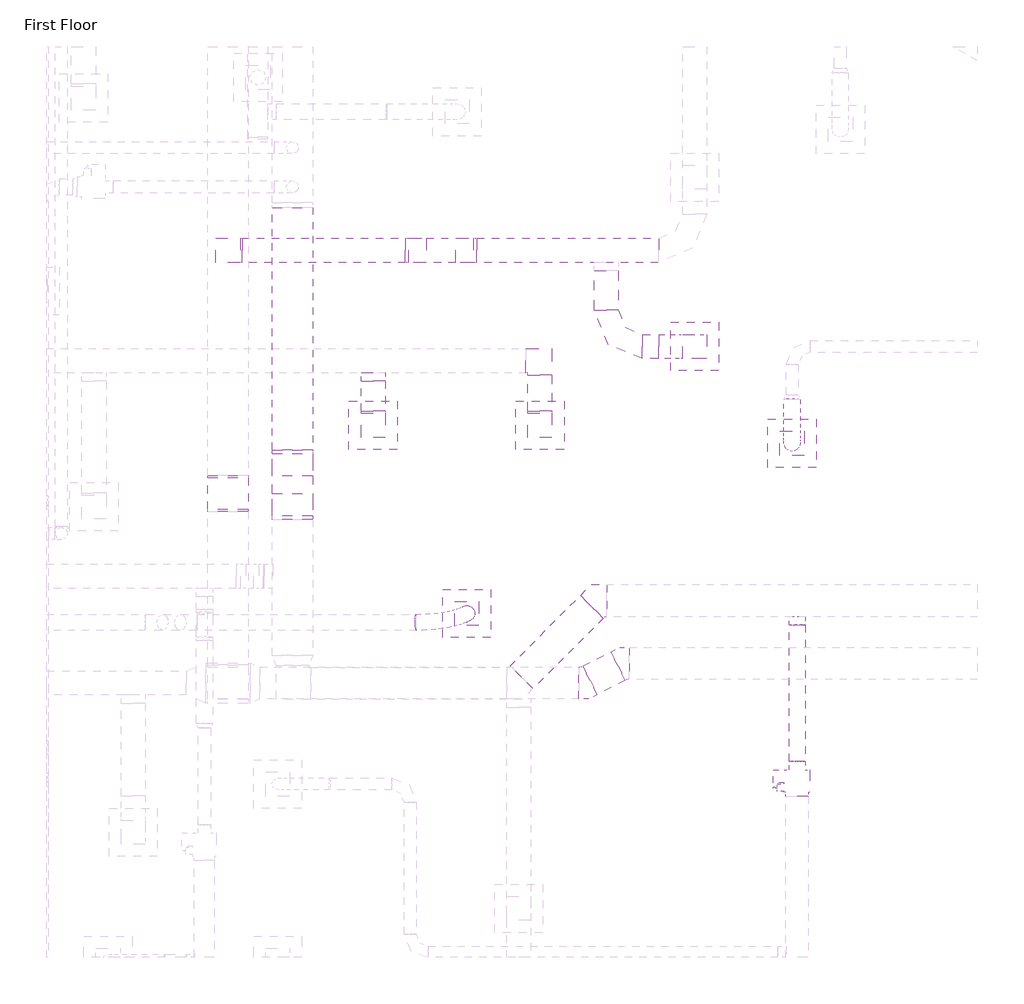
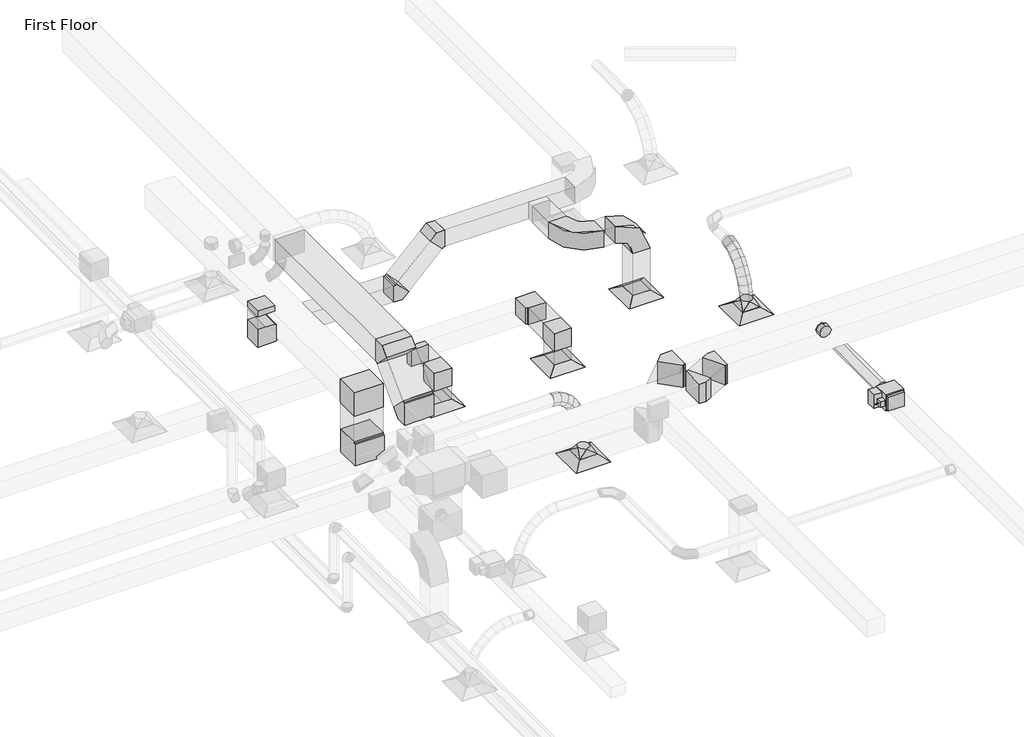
# One storey, part 8 of 61: 20 duct fittings, 19 duct segments, 5 air terminals, 1 proxy.
"""IFC4 building model written with IfcOpenShell, lengths in millimetres."""

from ifc_helpers import new_model, si_unit, point, frame, frame_2d, origin, place, context, project, spatial, polyline, circle_curve, ellipse_curve, trimmed, segment, composite_curve, outline, extrude, transform, mapped, element, save
from ifc_brep_helpers import plane_surface, cylinder_surface, advanced_brep
from components import m_exhaust_grill_er_600_x_600_face_300_x_300_connection_ff221211, m_vav_unit_single_duct_200_mm_f9143229, m_rectangular_elbow_mitered_standard_b81e202c, m_rectangular_elbow_mitered_standard_8eee5933, m_rectangular_elbow_mitered_standard_bc5a5ab9, m_rectangular_elbow_mitered_standard_0587a28b, m_rectangular_elbow_mitered_standard_b8a34dab, m_rectangular_elbow_mitered_standard_e0a73897, m_rectangular_elbow_radius_1_5_w_86011e9f, m_rectangular_takeoff_standard_b44bfa45, m_rectangular_to_round_transition_angle_45_degree_60daae35, m_round_takeoff_standard_496960af

model = new_model("IFC4")

# Units and contexts
model_context = context("Model", 3, world=origin())
ifc_project = project(units=[si_unit("LENGTHUNIT", "METRE", prefix="MILLI")], contexts=[model_context])

# Site, building, storey
site = spatial("IfcSite", under=ifc_project)
building = spatial("IfcBuilding", under=site)
storey = spatial("IfcBuildingStorey", under=building, Name="First Floor", Elevation=0.0)

# Air terminals
placement = place(None, origin())
m_exhaust_grill_er_600_x_600_face_300_x_300_connection_shape = m_exhaust_grill_er_600_x_600_face_300_x_300_connection_ff221211(model_context)
element("IfcAirTerminal", 1, ObjectType="M_Exhaust Grill : ER-600 x 600 Face 300 x 300 Connection", at=placement, inside=storey, context=model_context, shape_type="MappedRepresentation", body=[
    mapped(m_exhaust_grill_er_600_x_600_face_300_x_300_connection_shape, transform((-38065.9613903, 13734.3952, 2680.0), x_axis=(1.0, 0.0, 0.0), y_axis=(0.0, 1.0, 0.0), z_axis=(0.0, 0.0, 1.0))),
])
element("IfcAirTerminal", 2, ObjectType="M_Exhaust Grill : ER-600 x 600 Face 300 x 300 Connection", at=placement, inside=storey, context=model_context, shape_type="MappedRepresentation", body=[
    mapped(m_exhaust_grill_er_600_x_600_face_300_x_300_connection_shape, transform((-35997.5612377, 13734.3952, 2680.0), x_axis=(1.0, 0.0, 0.0), y_axis=(0.0, 1.0, 0.0), z_axis=(0.0, 0.0, 1.0))),
])
element("IfcAirTerminal", 3, ObjectType="M_Return Register : RR-600 x 600 Face 300 x 300 Connection", at=placement, inside=storey, context=model_context, shape_type="MappedRepresentation", body=[
    mapped(m_exhaust_grill_er_600_x_600_face_300_x_300_connection_shape, transform((-34075.733002, 14711.7643739, 2680.0), x_axis=(1.0, 0.0, 0.0), y_axis=(0.0, 1.0, 0.0), z_axis=(0.0, 0.0, 1.0))),
])
element("IfcAirTerminal", 4, ObjectType="M_Supply Diffuser : SD-600 x 600 Face 300 x 300 Connection", at=placement, inside=storey, context=model_context, shape_type="MappedRepresentation", body=[
    mapped(m_exhaust_grill_er_600_x_600_face_300_x_300_connection_shape, transform((-36904.7071691, 11397.5598139, 2680.0), x_axis=(1.0, 0.0, 0.0), y_axis=(0.0, 1.0, 0.0), z_axis=(0.0, 0.0, 1.0))),
])
element("IfcAirTerminal", 5, ObjectType="M_Supply Diffuser : SD-600 x 600 Face 300 x 300 Connection", at=placement, inside=storey, context=model_context, shape_type="MappedRepresentation", body=[
    mapped(m_exhaust_grill_er_600_x_600_face_300_x_300_connection_shape, transform((-32868.9643314, 13510.0878142, 2680.0), x_axis=(1.0, 0.0, 0.0), y_axis=(0.0, 1.0, 0.0), z_axis=(0.0, 0.0, 1.0))),
])

# Proxy
m_vav_unit_single_duct_200_mm_shape = m_vav_unit_single_duct_200_mm_f9143229(model_context)
element("IfcBuildingElementProxy", 6, Name="M_VAV Unit - Single Duct : 200 mm", ObjectType="M_VAV Unit - Single Duct : 200 mm", at=placement, inside=storey, context=model_context, shape_type="MappedRepresentation", body=[
    mapped(m_vav_unit_single_duct_200_mm_shape, transform((-32807.2625281, 9458.7329872, 3500.05), x_axis=(0.0, -1.0, 0.0), y_axis=(1.0, 0.0, 0.0), z_axis=(0.0, 0.0, 1.0))),
])

# Duct fittings
m_rectangular_elbow_mitered_standard_shape = m_rectangular_elbow_mitered_standard_b81e202c(model_context)
element("IfcDuctFitting", 7, ObjectType="M_Rectangular Elbow - Mitered : Standard", at=placement, inside=storey, context=model_context, shape_type="MappedRepresentation", body=[
    mapped(m_rectangular_elbow_mitered_standard_shape, transform((-36870.4056649, 15905.4855953, 4000.0), x_axis=(-1.0, 0.0, 0.0), y_axis=(0.0, 0.0, -1.0), z_axis=(0.0, -1.0, 0.0))),
])
element("IfcDuctFitting", 8, ObjectType="M_Rectangular Elbow - Mitered : Standard", at=placement, inside=storey, context=model_context, shape_type="MappedRepresentation", body=[
    mapped(m_rectangular_elbow_mitered_standard_shape, transform((-37577.5124461, 15905.4855953, 3292.8932188), x_axis=(-0.707106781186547, 0.0, -0.7071067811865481), y_axis=(-0.7071067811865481, 0.0, 0.707106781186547), z_axis=(0.0, 1.0, 0.0))),
])
m_rectangular_elbow_mitered_standard_2_shape = m_rectangular_elbow_mitered_standard_8eee5933(model_context)
element("IfcDuctFitting", 9, ObjectType="M_Rectangular Elbow - Mitered : Standard", at=placement, inside=storey, context=model_context, shape_type="MappedRepresentation", body=[
    mapped(m_rectangular_elbow_mitered_standard_2_shape, transform((-39867.4195561, 15905.4855953, 3292.8932188), x_axis=(-1.0, 0.0, 0.0), y_axis=(0.0, 0.0, 1.0), z_axis=(0.0, 1.0, 0.0))),
])
element("IfcDuctFitting", 10, ObjectType="M_Rectangular Elbow - Mitered : Standard", at=placement, inside=storey, context=model_context, shape_type="MappedRepresentation", body=[
    mapped(m_rectangular_elbow_mitered_standard_2_shape, transform((-35997.5612377, 13734.3952, 3200.0), x_axis=(0.0, 0.0, 1.0), y_axis=(0.0, 1.0, 0.0), z_axis=(-1.0, 0.0, 0.0))),
])
element("IfcDuctFitting", 11, ObjectType="M_Rectangular Elbow - Mitered : Standard", at=placement, inside=storey, context=model_context, shape_type="MappedRepresentation", body=[
    mapped(m_rectangular_elbow_mitered_standard_2_shape, transform((-35997.5612377, 14534.3952, 3200.0), x_axis=(0.0, 1.0, 0.0), y_axis=(-1.0, 0.0, 0.0), z_axis=(0.0, 0.0, 1.0))),
])
element("IfcDuctFitting", 12, ObjectType="M_Rectangular Elbow - Mitered : Standard", at=placement, inside=storey, context=model_context, shape_type="MappedRepresentation", body=[
    mapped(m_rectangular_elbow_mitered_standard_2_shape, transform((-38065.9613903, 13734.3952, 3200.0), x_axis=(0.0, 0.0, 1.0), y_axis=(0.0, 1.0, 0.0), z_axis=(-1.0, 0.0, 0.0))),
])
m_rectangular_elbow_mitered_standard_3_shape = m_rectangular_elbow_mitered_standard_bc5a5ab9(model_context)
element("IfcDuctFitting", 13, ObjectType="M_Rectangular Elbow - Mitered : Standard", at=placement, inside=storey, context=model_context, shape_type="MappedRepresentation", body=[
    mapped(m_rectangular_elbow_mitered_standard_3_shape, transform((-35275.3729051, 11555.6774916, 3609.5), x_axis=(-1.0, 0.0, 0.0), y_axis=(0.0, -1.0, 0.0), z_axis=(0.0, 0.0, 1.0))),
])
m_rectangular_elbow_mitered_standard_4_shape = m_rectangular_elbow_mitered_standard_0587a28b(model_context)
element("IfcDuctFitting", 14, ObjectType="M_Rectangular Elbow - Mitered : Standard", at=placement, inside=storey, context=model_context, shape_type="MappedRepresentation", body=[
    mapped(m_rectangular_elbow_mitered_standard_4_shape, transform((-39067.4195561, 12670.5078624, 3609.5), x_axis=(0.0, 1.0, 0.0), y_axis=(0.0, 0.0, 1.0), z_axis=(1.0, 0.0, 0.0))),
])
element("IfcDuctFitting", 15, ObjectType="M_Rectangular Elbow - Mitered : Standard", at=placement, inside=storey, context=model_context, shape_type="MappedRepresentation", body=[
    mapped(m_rectangular_elbow_mitered_standard_4_shape, transform((-39067.4195561, 13320.507873, 4259.5), x_axis=(0.0, 0.7071067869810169, 0.7071067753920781), y_axis=(0.0, 0.7071067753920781, -0.7071067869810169), z_axis=(-1.0, 0.0, 0.0))),
])
m_rectangular_elbow_mitered_standard_5_shape = m_rectangular_elbow_mitered_standard_b8a34dab(model_context)
element("IfcDuctFitting", 16, ObjectType="M_Rectangular Elbow - Mitered : Standard", at=placement, inside=storey, context=model_context, shape_type="MappedRepresentation", body=[
    mapped(m_rectangular_elbow_mitered_standard_5_shape, transform((-39867.4195561, 12888.1855307, 3081.0), x_axis=(0.0, 1.0, 0.0), y_axis=(0.0, 0.0, 1.0), z_axis=(1.0, 0.0, 0.0))),
])
element("IfcDuctFitting", 17, ObjectType="M_Rectangular Elbow - Mitered : Standard", at=placement, inside=storey, context=model_context, shape_type="MappedRepresentation", body=[
    mapped(m_rectangular_elbow_mitered_standard_5_shape, transform((-39867.4195561, 12888.1855307, 4000.0), x_axis=(0.0, 0.0, 1.0), y_axis=(0.0, 1.0, 0.0), z_axis=(-1.0, 0.0, 0.0))),
])
m_rectangular_elbow_mitered_standard_6_shape = m_rectangular_elbow_mitered_standard_e0a73897(model_context)
element("IfcDuctFitting", 18, ObjectType="M_Rectangular Elbow - Mitered : Standard", at=placement, inside=storey, context=model_context, shape_type="MappedRepresentation", body=[
    mapped(m_rectangular_elbow_mitered_standard_6_shape, transform((-35439.1654738, 10534.5124787, 4000.0), x_axis=(1.0, 0.0, 0.0), y_axis=(0.0, 1.0, 0.0), z_axis=(0.0, 0.0, 1.0))),
])
element("IfcDuctFitting", 19, ObjectType="M_Rectangular Elbow - Mitered : Standard", at=placement, inside=storey, context=model_context, shape_type="MappedRepresentation", body=[
    mapped(m_rectangular_elbow_mitered_standard_6_shape, transform((-34961.5458195, 10777.8718477, 4000.0), x_axis=(-1.0, 0.0, 0.0), y_axis=(0.0, -1.0, 0.0), z_axis=(0.0, 0.0, 1.0))),
])
m_rectangular_elbow_radius_1_5_w_shape = m_rectangular_elbow_radius_1_5_w_86011e9f(model_context)
element("IfcDuctFitting", 20, ObjectType="M_Rectangular Elbow - Radius : 1.5 W", at=placement, inside=storey, context=model_context, shape_type="MappedRepresentation", body=[
    mapped(m_rectangular_elbow_radius_1_5_w_shape, transform((-34075.733002, 14711.7643739, 4000.0), x_axis=(0.0, 0.0, 1.0), y_axis=(-1.0, 0.0, 0.0), z_axis=(0.0, -1.0, 0.0))),
])
element("IfcDuctFitting", 21, ObjectType="M_Rectangular Elbow - Radius : 1.5 W", at=placement, inside=storey, context=model_context, shape_type="MappedRepresentation", body=[
    mapped(m_rectangular_elbow_radius_1_5_w_shape, transform((-35175.733002, 14711.7643739, 4000.0), x_axis=(0.0, -1.0, 0.0), y_axis=(1.0, 0.0, 0.0), z_axis=(0.0, 0.0, 1.0))),
])
m_rectangular_takeoff_standard_shape = m_rectangular_takeoff_standard_b44bfa45(model_context)
element("IfcDuctFitting", 22, ObjectType="M_Rectangular Takeoff : Standard", at=placement, inside=storey, context=model_context, shape_type="MappedRepresentation", body=[
    mapped(m_rectangular_takeoff_standard_shape, transform((-39867.4195561, 15905.4855953, 3800.0), x_axis=(0.0, 0.0, -1.0), y_axis=(0.0, -1.0, 0.0), z_axis=(-1.0, 0.0, 0.0))),
])
element("IfcDuctFitting", 23, ObjectType="M_Rectangular Takeoff : Standard", at=placement, inside=storey, context=model_context, shape_type="MappedRepresentation", body=[
    mapped(m_rectangular_takeoff_standard_shape, transform((-38065.9613903, 14384.3952, 3200.0), x_axis=(0.0, -1.0, 0.0), y_axis=(-1.0, 0.0, 0.0), z_axis=(0.0, 0.0, -1.0))),
])
m_rectangular_to_round_transition_angle_45_degree_shape = m_rectangular_to_round_transition_angle_45_degree_60daae35(model_context)
element("IfcDuctFitting", 24, ObjectType="M_Rectangular to Round Transition - Angle : 45 Degree", at=placement, inside=storey, context=model_context, shape_type="MappedRepresentation", body=[
    mapped(m_rectangular_to_round_transition_angle_45_degree_shape, transform((-36904.7071691, 11397.5598139, 2781.6), x_axis=(0.0, 0.0, 1.0), y_axis=(1.0, 0.0, 0.0), z_axis=(0.0, 1.0, 0.0))),
])
element("IfcDuctFitting", 25, ObjectType="M_Rectangular to Round Transition - Angle : 45 Degree", at=placement, inside=storey, context=model_context, shape_type="MappedRepresentation", body=[
    mapped(m_rectangular_to_round_transition_angle_45_degree_shape, transform((-32868.9643314, 13510.0878142, 2781.6), x_axis=(0.0, 0.0, 1.0), y_axis=(1.0, 0.0, 0.0), z_axis=(0.0, 1.0, 0.0))),
])
m_round_takeoff_standard_shape = m_round_takeoff_standard_496960af(model_context)
element("IfcDuctFitting", 26, ObjectType="M_Round Takeoff : Standard", at=placement, inside=storey, context=model_context, shape_type="MappedRepresentation", body=[
    mapped(m_round_takeoff_standard_shape, transform((-32806.6125281, 11355.6774916, 3634.5974942), x_axis=(0.0, -0.99999999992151, -1.2529164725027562e-05), y_axis=(-1.0, 0.0, 0.0), z_axis=(0.0, 1.2529164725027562e-05, -0.99999999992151))),
])

# Duct segments
element("IfcDuctSegment", 27, ObjectType="Flex - Round", at=placement, inside=storey, context=model_context, shape_type="AdvancedBrep", body=[
    advanced_brep(
    [(-37532.1205389, 11388.2925949, 4015.1017809), (-37545.5702836, 11287.921509, 3916.3862832), (-37527.0770659, 11188.3561966, 4015.1017809), (-37513.6273212, 11288.7272826, 4113.8172785), (-37413.1993252, 11391.2924286, 3995.8489121), (-37439.8261417, 11290.5889459, 3899.2667297), (-37403.4972101, 11191.4735463, 3995.0946966), (-37376.8703936, 11292.177029, 4091.676879), (-36916.2333262, 11496.8780607, 2904.0523855), (-36805.4719827, 11408.9947928, 2906.9603043), (-36893.181012, 11298.241567, 2900.5689707), (-37003.9423556, 11386.1248349, 2897.661052), (-37309.1665672, 11399.3120497, 3942.6115026), (-37357.61827, 11296.9261419, 3857.1979216), (-37292.1410636, 11200.0577088, 3938.1096383), (-37243.6893607, 11302.4436166, 4023.5232193), (-37216.9850542, 11411.2683816, 3859.6170249), (-37280.1801377, 11306.9701951, 3787.4774631), (-37195.6723368, 11212.5701105, 3851.2552211), (-37132.4772533, 11316.8682971, 3923.3947828), (-37136.8919306, 11425.9322661, 3751.9580012), (-37209.2625972, 11319.9541639, 3692.1520116), (-37113.4803858, 11227.6182597, 3740.77501), (-37041.1097191, 11333.5963619, 3800.5809995), (-37069.1580031, 11442.0011824, 3625.1838318), (-37147.2588465, 11334.6636768, 3576.1027247), (-37044.9209037, 11243.8830272, 3612.4556919), (-36966.8200602, 11351.2205328, 3661.536799), (-37013.8838176, 11458.1494913, 3484.9889037), (-37095.7209832, 11349.7204222, 3445.3844341), (-36989.5198447, 11260.0684021, 3471.9389675), (-36907.6826791, 11368.4974712, 3511.5434371), (-36971.0407864, 11473.0499356, 3337.0509436), (-37055.443919, 11363.7284449, 3306.3068164), (-36946.9322968, 11274.8799915, 3324.8831972), (-36862.5291641, 11384.2014823, 3355.6273244), (-36940.5350742, 11485.3756188, 3186.969184), (-37026.7614911, 11375.317439, 3165.1952363), (-36916.8785952, 11287.023042, 3177.0252359), (-36830.6521783, 11397.0812218, 3198.7991836), (-36922.2573385, 11493.7911722, 3040.2122535), (-37009.7276952, 11383.1602495, 3028.4262379), (-36899.0945826, 11295.2112721, 3034.2325425), (-36811.6242258, 11405.8421948, 3046.018558)],
    [
        (0, 1, circle_curve(frame((-37529.5988024, 11288.3243958, 4015.1017809), z_axis=(-0.9868410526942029, -0.024893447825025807, 0.15976561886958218), x_axis=(-0.02521736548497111, 0.9996819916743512, 0.0)), 100.0)),
        (1, 2, circle_curve(frame((-37529.5988024, 11288.3243958, 4015.1017809), z_axis=(-0.9868410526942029, -0.024893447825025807, 0.15976561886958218), x_axis=(-0.02521736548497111, 0.9996819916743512, 0.0)), 100.0)),
        (2, 3, circle_curve(frame((-37529.5988024, 11288.3243958, 4015.1017809), z_axis=(-0.9868410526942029, -0.024893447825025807, 0.15976561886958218), x_axis=(-0.02521736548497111, 0.9996819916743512, 0.0)), 100.0)),
        (3, 0, circle_curve(frame((-37529.5988024, 11288.3243958, 4015.1017809), z_axis=(-0.9868410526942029, -0.024893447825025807, 0.15976561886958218), x_axis=(-0.02521736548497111, 0.9996819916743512, 0.0)), 100.0)),
        (0, 4),
        (4, 5, ellipse_curve(frame((-37408.3482677, 11291.3829875, 3995.4718043), z_axis=(-0.9492412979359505, -0.047263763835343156, 0.3109776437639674), x_axis=(-0.3145464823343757, 0.13882177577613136, -0.939036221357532)), 101.2545053, 100.0)),
        (5, 1),
        (5, 6, ellipse_curve(frame((-37408.3482677, 11291.3829875, 3995.4718043), z_axis=(-0.9492412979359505, -0.047263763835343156, 0.3109776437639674), x_axis=(-0.3145464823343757, 0.13882177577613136, -0.939036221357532)), 101.2545053, 100.0)),
        (6, 2),
        (6, 7, ellipse_curve(frame((-37408.3482677, 11291.3829875, 3995.4718043), z_axis=(-0.9492412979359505, -0.047263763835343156, 0.3109776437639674), x_axis=(-0.3145464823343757, 0.13882177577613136, -0.939036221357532)), 101.2545053, 100.0)),
        (7, 3),
        (7, 4, ellipse_curve(frame((-37408.3482677, 11291.3829875, 3995.4718043), z_axis=(-0.9492412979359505, -0.047263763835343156, 0.3109776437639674), x_axis=(-0.3145464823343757, 0.13882177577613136, -0.939036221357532)), 101.2545053, 100.0)),
        (8, 9, circle_curve(frame((-36904.7071691, 11397.5598139, 2902.3106781), z_axis=(0.04418763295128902, 0.022643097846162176, -0.9987666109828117), x_axis=(-0.11526157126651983, 0.9931824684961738, 0.0174170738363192)), 100.0)),
        (9, 10, circle_curve(frame((-36904.7071691, 11397.5598139, 2902.3106781), z_axis=(0.04418763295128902, 0.022643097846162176, -0.9987666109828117), x_axis=(-0.11526157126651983, 0.9931824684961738, 0.0174170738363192)), 100.0)),
        (10, 11, circle_curve(frame((-36904.7071691, 11397.5598139, 2902.3106781), z_axis=(0.04418763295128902, 0.022643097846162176, -0.9987666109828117), x_axis=(-0.11526157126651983, 0.9931824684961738, 0.0174170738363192)), 100.0)),
        (11, 8, circle_curve(frame((-36904.7071691, 11397.5598139, 2902.3106781), z_axis=(0.04418763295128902, 0.022643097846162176, -0.9987666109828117), x_axis=(-0.11526157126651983, 0.9931824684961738, 0.0174170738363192)), 100.0)),
        (4, 12),
        (12, 13, ellipse_curve(frame((-37300.6538154, 11299.6848792, 3940.3605705), z_axis=(-0.8208879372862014, -0.08290790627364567, 0.5650391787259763), x_axis=(-0.5710370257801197, 0.10577423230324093, -0.8140814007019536)), 100.8548096, 100.0)),
        (13, 5),
        (13, 14, ellipse_curve(frame((-37300.6538154, 11299.6848792, 3940.3605705), z_axis=(-0.8208879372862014, -0.08290790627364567, 0.5650391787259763), x_axis=(-0.5710370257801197, 0.10577423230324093, -0.8140814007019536)), 100.8548096, 100.0)),
        (14, 6),
        (14, 15, ellipse_curve(frame((-37300.6538154, 11299.6848792, 3940.3605705), z_axis=(-0.8208879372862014, -0.08290790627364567, 0.5650391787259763), x_axis=(-0.5710370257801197, 0.10577423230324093, -0.8140814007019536)), 100.8548096, 100.0)),
        (15, 7),
        (15, 12, ellipse_curve(frame((-37300.6538154, 11299.6848792, 3940.3605705), z_axis=(-0.8208879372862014, -0.08290790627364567, 0.5650391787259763), x_axis=(-0.5710370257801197, 0.10577423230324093, -0.8140814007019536)), 100.8548096, 100.0)),
        (12, 16),
        (16, 17, ellipse_curve(frame((-37206.3286955, 11311.9192461, 3855.436123), z_axis=(-0.6698136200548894, -0.10279228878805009, 0.7353798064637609), x_axis=(-0.742224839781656, 0.06433123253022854, -0.6670560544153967)), 100.4897842, 100.0)),
        (17, 13),
        (17, 18, ellipse_curve(frame((-37206.3286955, 11311.9192461, 3855.436123), z_axis=(-0.6698136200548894, -0.10279228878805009, 0.7353798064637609), x_axis=(-0.742224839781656, 0.06433123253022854, -0.6670560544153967)), 100.4897842, 100.0)),
        (18, 14),
        (18, 19, ellipse_curve(frame((-37206.3286955, 11311.9192461, 3855.436123), z_axis=(-0.6698136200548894, -0.10279228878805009, 0.7353798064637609), x_axis=(-0.742224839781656, 0.06433123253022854, -0.6670560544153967)), 100.4897842, 100.0)),
        (19, 15),
        (19, 16, ellipse_curve(frame((-37206.3286955, 11311.9192461, 3855.436123), z_axis=(-0.6698136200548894, -0.10279228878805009, 0.7353798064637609), x_axis=(-0.742224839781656, 0.06433123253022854, -0.6670560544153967)), 100.4897842, 100.0)),
        (16, 20),
        (20, 21, ellipse_curve(frame((-37125.1861582, 11326.7752629, 3746.3665056), z_axis=(-0.5322991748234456, -0.11017107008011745, 0.8393568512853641), x_axis=(-0.8453693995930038, 0.016691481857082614, -0.5339213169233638)), 100.2745609, 100.0)),
        (21, 17),
        (21, 22, ellipse_curve(frame((-37125.1861582, 11326.7752629, 3746.3665056), z_axis=(-0.5322991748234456, -0.11017107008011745, 0.8393568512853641), x_axis=(-0.8453693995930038, 0.016691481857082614, -0.5339213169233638)), 100.2745609, 100.0)),
        (22, 18),
        (22, 23, ellipse_curve(frame((-37125.1861582, 11326.7752629, 3746.3665056), z_axis=(-0.5322991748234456, -0.11017107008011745, 0.8393568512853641), x_axis=(-0.8453693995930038, 0.016691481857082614, -0.5339213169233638)), 100.2745609, 100.0)),
        (23, 19),
        (23, 20, ellipse_curve(frame((-37125.1861582, 11326.7752629, 3746.3665056), z_axis=(-0.5322991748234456, -0.11017107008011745, 0.8393568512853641), x_axis=(-0.8453693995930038, 0.016691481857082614, -0.5339213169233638)), 100.2745609, 100.0)),
        (20, 24),
        (24, 25, ellipse_curve(frame((-37057.0394534, 11342.9421048, 3618.8197619), z_axis=(-0.4171973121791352, -0.10900406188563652, 0.9022552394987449), x_axis=(-0.9051040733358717, -0.039801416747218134, -0.42332311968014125)), 100.1642552, 100.0)),
        (25, 21),
        (25, 26, ellipse_curve(frame((-37057.0394534, 11342.9421048, 3618.8197619), z_axis=(-0.4171973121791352, -0.10900406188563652, 0.9022552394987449), x_axis=(-0.9051040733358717, -0.039801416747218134, -0.42332311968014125)), 100.1642552, 100.0)),
        (26, 22),
        (26, 27, ellipse_curve(frame((-37057.0394534, 11342.9421048, 3618.8197619), z_axis=(-0.4171973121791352, -0.10900406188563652, 0.9022552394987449), x_axis=(-0.9051040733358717, -0.039801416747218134, -0.42332311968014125)), 100.1642552, 100.0)),
        (27, 23),
        (27, 24, ellipse_curve(frame((-37057.0394534, 11342.9421048, 3618.8197619), z_axis=(-0.4171973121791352, -0.10900406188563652, 0.9022552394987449), x_axis=(-0.9051040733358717, -0.039801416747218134, -0.42332311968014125)), 100.1642552, 100.0)),
        (24, 28),
        (28, 29, ellipse_curve(frame((-37001.7018312, 11359.1089467, 3478.4639356), z_axis=(-0.32114207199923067, -0.10153295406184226, 0.9415725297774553), x_axis=(-0.9371213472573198, -0.10938422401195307, -0.3314191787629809)), 100.1099608, 100.0)),
        (29, 25),
        (29, 30, ellipse_curve(frame((-37001.7018312, 11359.1089467, 3478.4639356), z_axis=(-0.32114207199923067, -0.10153295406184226, 0.9415725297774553), x_axis=(-0.9371213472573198, -0.10938422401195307, -0.3314191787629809)), 100.1099608, 100.0)),
        (30, 26),
        (30, 31, ellipse_curve(frame((-37001.7018312, 11359.1089467, 3478.4639356), z_axis=(-0.32114207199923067, -0.10153295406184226, 0.9415725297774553), x_axis=(-0.9371213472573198, -0.10938422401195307, -0.3314191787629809)), 100.1099608, 100.0)),
        (31, 27),
        (31, 28, ellipse_curve(frame((-37001.7018312, 11359.1089467, 3478.4639356), z_axis=(-0.32114207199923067, -0.10153295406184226, 0.9415725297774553), x_axis=(-0.9371213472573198, -0.10938422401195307, -0.3314191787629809)), 100.1099608, 100.0)),
        (28, 32),
        (32, 33, ellipse_curve(frame((-36958.9865416, 11373.9649636, 3330.9670704), z_axis=(-0.23791507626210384, -0.08833406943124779, 0.9672608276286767), x_axis=(-0.9482267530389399, -0.19458478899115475, -0.251003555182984)), 100.0854142, 100.0)),
        (33, 29),
        (33, 34, ellipse_curve(frame((-36958.9865416, 11373.9649636, 3330.9670704), z_axis=(-0.23791507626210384, -0.08833406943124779, 0.9672608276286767), x_axis=(-0.9482267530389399, -0.19458478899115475, -0.251003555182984)), 100.0854142, 100.0)),
        (34, 30),
        (34, 35, ellipse_curve(frame((-36958.9865416, 11373.9649636, 3330.9670704), z_axis=(-0.23791507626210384, -0.08833406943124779, 0.9672608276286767), x_axis=(-0.9482267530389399, -0.19458478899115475, -0.251003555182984)), 100.0854142, 100.0)),
        (35, 31),
        (35, 32, ellipse_curve(frame((-36958.9865416, 11373.9649636, 3330.9670704), z_axis=(-0.23791507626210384, -0.08833406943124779, 0.9672608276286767), x_axis=(-0.9482267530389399, -0.19458478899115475, -0.251003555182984)), 100.0854142, 100.0)),
        (32, 36),
        (36, 37, ellipse_curve(frame((-36928.7068347, 11386.1993304, 3181.99721), z_axis=(-0.1610964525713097, -0.06857145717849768, 0.984553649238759), x_axis=(-0.9401546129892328, -0.2928382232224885, -0.17422708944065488)), 100.0799755, 100.0)),
        (37, 33),
        (37, 38, ellipse_curve(frame((-36928.7068347, 11386.1993304, 3181.99721), z_axis=(-0.1610964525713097, -0.06857145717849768, 0.984553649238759), x_axis=(-0.9401546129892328, -0.2928382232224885, -0.17422708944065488)), 100.0799755, 100.0)),
        (38, 34),
        (38, 39, ellipse_curve(frame((-36928.7068347, 11386.1993304, 3181.99721), z_axis=(-0.1610964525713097, -0.06857145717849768, 0.984553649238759), x_axis=(-0.9401546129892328, -0.2928382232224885, -0.17422708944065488)), 100.0799755, 100.0)),
        (39, 35),
        (39, 36, ellipse_curve(frame((-36928.7068347, 11386.1993304, 3181.99721), z_axis=(-0.1610964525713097, -0.06857145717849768, 0.984553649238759), x_axis=(-0.9401546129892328, -0.2928382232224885, -0.17422708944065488)), 100.0799755, 100.0)),
        (36, 40),
        (40, 41, ellipse_curve(frame((-36910.6759605, 11394.5012222, 3037.222398), z_axis=(-0.08386745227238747, -0.03976484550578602, 0.9956831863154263), x_axis=(-0.9142390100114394, -0.39441446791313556, -0.09275915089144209)), 100.0939457, 100.0)),
        (41, 37),
        (41, 42, ellipse_curve(frame((-36910.6759605, 11394.5012222, 3037.222398), z_axis=(-0.08386745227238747, -0.03976484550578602, 0.9956831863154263), x_axis=(-0.9142390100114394, -0.39441446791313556, -0.09275915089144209)), 100.0939457, 100.0)),
        (42, 38),
        (42, 43, ellipse_curve(frame((-36910.6759605, 11394.5012222, 3037.222398), z_axis=(-0.08386745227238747, -0.03976484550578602, 0.9956831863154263), x_axis=(-0.9142390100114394, -0.39441446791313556, -0.09275915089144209)), 100.0939457, 100.0)),
        (43, 39),
        (43, 40, ellipse_curve(frame((-36910.6759605, 11394.5012222, 3037.222398), z_axis=(-0.08386745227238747, -0.03976484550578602, 0.9956831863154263), x_axis=(-0.9142390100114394, -0.39441446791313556, -0.09275915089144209)), 100.0939457, 100.0)),
        (40, 8),
        (11, 41),
        (10, 42),
        (9, 43),
    ],
    [
        plane_surface(frame((-37529.5988024, 11387.1321867, 4030.4972496), z_axis=(-0.986841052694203, -0.024893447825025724, 0.15976561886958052), x_axis=(0.16169334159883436, -0.15192880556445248, 0.9750758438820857))),
        cylinder_surface(frame((-37529.5988024, 11288.3243958, 4015.1017809), z_axis=(-0.9868410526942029, -0.024893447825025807, 0.15976561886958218), x_axis=(-0.02521736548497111, 0.9996819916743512, 0.0)), 100.0),
        plane_surface(frame((-36904.7071691, 11497.5341249, 2904.5772017), z_axis=(0.044187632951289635, 0.022643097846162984, -0.9987666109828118), x_axis=(0.9990232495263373, -0.0010015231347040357, 0.044176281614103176))),
        cylinder_surface(frame((-37408.3482677, 11291.3829875, 3995.4718043), z_axis=(-0.8881200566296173, -0.06846291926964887, 0.45448387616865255), x_axis=(-0.0694735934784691, 0.9974784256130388, 0.014498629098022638)), 100.0),
        cylinder_surface(frame((-37300.6538154, 11299.6848792, 3940.3605705), z_axis=(-0.7397407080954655, -0.09594749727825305, 0.6660163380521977), x_axis=(-0.09816612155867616, 0.9945805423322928, 0.03424846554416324)), 100.0),
        cylinder_surface(frame((-37206.3286955, 11311.9192461, 3855.436123), z_axis=(-0.5933572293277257, -0.10863506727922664, 0.7975748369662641), x_axis=(-0.11329932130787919, 0.9922581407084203, 0.05086301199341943)), 100.0),
        cylinder_surface(frame((-37125.1861582, 11326.7752629, 3746.3665056), z_axis=(-0.4683261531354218, -0.1111037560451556, 0.8765423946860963), x_axis=(-0.12002416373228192, 0.990866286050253, 0.06146709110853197)), 100.0),
        cylinder_surface(frame((-37057.0394534, 11342.9421048, 3618.8197619), z_axis=(-0.3647001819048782, -0.10654686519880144, 0.9250089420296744), x_axis=(-0.12208986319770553, 0.9903265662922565, 0.06593449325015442)), 100.0),
        cylinder_surface(frame((-37001.7018312, 11359.1089467, 3478.4639356), z_axis=(-0.2768784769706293, -0.09629599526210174, 0.9560676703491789), x_axis=(-0.12161488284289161, 0.9904767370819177, 0.06454187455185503)), 100.0),
        cylinder_surface(frame((-36958.9865416, 11373.9649636, 3330.9670704), z_axis=(-0.19854559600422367, -0.08022137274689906, 0.9768030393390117), x_axis=(-0.11977342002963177, 0.9911604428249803, 0.057055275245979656)), 100.0),
        cylinder_surface(frame((-36928.7068347, 11386.1993304, 3181.99721), z_axis=(-0.12338983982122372, -0.05681194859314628, 0.9907307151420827), x_axis=(-0.11735576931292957, 0.9921895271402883, 0.04227961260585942)), 100.0),
        cylinder_surface(frame((-36910.6759605, 11394.5012222, 3037.222398), z_axis=(-0.044187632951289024, -0.02264309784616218, 0.9987666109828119), x_axis=(-0.11526157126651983, 0.9931824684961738, 0.0174170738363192)), 100.0),
    ],
    [
        (0, [[1, 2, 3, 4]]),
        (1, [[-1, 5, 6, 7]]),
        (1, [[-2, -7, 8, 9]]),
        (1, [[-3, -9, 10, 11]]),
        (1, [[-4, -11, 12, -5]]),
        (2, [[13, 14, 15, 16]]),
        (3, [[-6, 17, 18, 19]]),
        (3, [[-8, -19, 20, 21]]),
        (3, [[-10, -21, 22, 23]]),
        (3, [[-12, -23, 24, -17]]),
        (4, [[-18, 25, 26, 27]]),
        (4, [[-20, -27, 28, 29]]),
        (4, [[-22, -29, 30, 31]]),
        (4, [[-24, -31, 32, -25]]),
        (5, [[-26, 33, 34, 35]]),
        (5, [[-28, -35, 36, 37]]),
        (5, [[-30, -37, 38, 39]]),
        (5, [[-32, -39, 40, -33]]),
        (6, [[-34, 41, 42, 43]]),
        (6, [[-36, -43, 44, 45]]),
        (6, [[-38, -45, 46, 47]]),
        (6, [[-40, -47, 48, -41]]),
        (7, [[-42, 49, 50, 51]]),
        (7, [[-44, -51, 52, 53]]),
        (7, [[-46, -53, 54, 55]]),
        (7, [[-48, -55, 56, -49]]),
        (8, [[-50, 57, 58, 59]]),
        (8, [[-52, -59, 60, 61]]),
        (8, [[-54, -61, 62, 63]]),
        (8, [[-56, -63, 64, -57]]),
        (9, [[-58, 65, 66, 67]]),
        (9, [[-60, -67, 68, 69]]),
        (9, [[-62, -69, 70, 71]]),
        (9, [[-64, -71, 72, -65]]),
        (10, [[-66, 73, 74, 75]]),
        (10, [[-68, -75, 76, 77]]),
        (10, [[-70, -77, 78, 79]]),
        (10, [[-72, -79, 80, -73]]),
        (11, [[-74, 81, -16, 82]]),
        (11, [[-76, -82, -15, 83]]),
        (11, [[-78, -83, -14, 84]]),
        (11, [[-80, -84, -13, -81]]),
    ],
),
])
element("IfcDuctSegment", 28, ObjectType="Flex - Round", at=placement, inside=storey, context=model_context, shape_type="AdvancedBrep", body=[
    advanced_brep(
    [(-32768.9643314, 14051.4090348, 3619.1), (-32868.9643314, 14068.125695, 3520.5071338), (-32968.9643314, 14051.4090348, 3619.1), (-32868.9643314, 14034.6923746, 3717.6928662), (-32768.9643314, 13942.1858025, 3600.5809354), (-32868.9643314, 13973.7994887, 3504.5138961), (-32968.9643314, 13942.1858025, 3600.5809354), (-32868.9643314, 13910.5721164, 3696.6479747), (-32768.9643314, 13510.0878142, 2902.3106781), (-32868.9643314, 13410.5270026, 2911.6725571), (-32968.9643314, 13510.0878142, 2902.3106781), (-32868.9643314, 13609.6486259, 2892.9487991), (-32768.9643314, 13840.5141207, 3549.2061596), (-32868.9643314, 13896.1627784, 3465.2840092), (-32968.9643314, 13840.5141207, 3549.2061596), (-32868.9643314, 13784.8654629, 3633.12831), (-32768.9643314, 13748.5550825, 3471.2492995), (-32868.9643314, 13820.249557, 3400.9297434), (-32968.9643314, 13748.5550825, 3471.2492995), (-32868.9643314, 13676.8606081, 3541.5688556), (-32768.9643314, 13668.4697815, 3372.9839821), (-32868.9643314, 13750.8018719, 3315.7168676), (-32968.9643314, 13668.4697815, 3372.9839821), (-32868.9643314, 13586.137691, 3430.2510966), (-32768.9643314, 13602.4193108, 3260.6838343), (-32868.9643314, 13692.1215605, 3215.9475914), (-32968.9643314, 13602.4193108, 3260.6838343), (-32868.9643314, 13512.7170611, 3305.4200772), (-32768.9643314, 13552.5647638, 3140.6224831), (-32868.9643314, 13647.6083215, 3108.749353), (-32968.9643314, 13552.5647638, 3140.6224831), (-32868.9643314, 13457.5212061, 3172.4956132), (-32768.9643314, 13521.0672338, 3019.0735554), (-32868.9643314, 13619.87843, 3001.7397371), (-32968.9643314, 13521.0672338, 3019.0735554), (-32868.9643314, 13422.2560377, 3036.4073736)],
    [
        (0, 1, circle_curve(frame((-32868.9643314, 14051.4090348, 3619.1), z_axis=(0.0, 0.9859286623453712, 0.16716660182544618), x_axis=(1.0, 0.0, 0.0)), 100.0)),
        (1, 2, circle_curve(frame((-32868.9643314, 14051.4090348, 3619.1), z_axis=(0.0, 0.9859286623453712, 0.16716660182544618), x_axis=(1.0, 0.0, 0.0)), 100.0)),
        (2, 3, circle_curve(frame((-32868.9643314, 14051.4090348, 3619.1), z_axis=(0.0, 0.9859286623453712, 0.16716660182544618), x_axis=(1.0, 0.0, 0.0)), 100.0)),
        (3, 0, circle_curve(frame((-32868.9643314, 14051.4090348, 3619.1), z_axis=(0.0, 0.9859286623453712, 0.16716660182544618), x_axis=(1.0, 0.0, 0.0)), 100.0)),
        (0, 4),
        (4, 5, ellipse_curve(frame((-32868.9643314, 13942.1858025, 3600.5809354), z_axis=(0.0, 0.9498885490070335, 0.31258877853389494), x_axis=(0.0, 0.31258877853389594, -0.9498885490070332)), 101.1350641, 100.0)),
        (5, 1),
        (5, 6, ellipse_curve(frame((-32868.9643314, 13942.1858025, 3600.5809354), z_axis=(0.0, 0.9498885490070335, 0.31258877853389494), x_axis=(0.0, 0.31258877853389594, -0.9498885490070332)), 101.1350641, 100.0)),
        (6, 2),
        (6, 7, ellipse_curve(frame((-32868.9643314, 13942.1858025, 3600.5809354), z_axis=(0.0, 0.9498885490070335, 0.31258877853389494), x_axis=(0.0, 0.31258877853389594, -0.9498885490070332)), 101.1350641, 100.0)),
        (7, 3),
        (7, 4, ellipse_curve(frame((-32868.9643314, 13942.1858025, 3600.5809354), z_axis=(0.0, 0.9498885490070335, 0.31258877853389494), x_axis=(0.0, 0.31258877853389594, -0.9498885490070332)), 101.1350641, 100.0)),
        (8, 9, circle_curve(frame((-32868.9643314, 13510.0878142, 2902.3106781), z_axis=(0.0, -0.0936187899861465, -0.9956081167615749), x_axis=(1.0, 0.0, 0.0)), 100.0)),
        (9, 10, circle_curve(frame((-32868.9643314, 13510.0878142, 2902.3106781), z_axis=(0.0, -0.0936187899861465, -0.9956081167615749), x_axis=(1.0, 0.0, 0.0)), 100.0)),
        (10, 11, circle_curve(frame((-32868.9643314, 13510.0878142, 2902.3106781), z_axis=(0.0, -0.0936187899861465, -0.9956081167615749), x_axis=(1.0, 0.0, 0.0)), 100.0)),
        (11, 8, circle_curve(frame((-32868.9643314, 13510.0878142, 2902.3106781), z_axis=(0.0, -0.0936187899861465, -0.9956081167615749), x_axis=(1.0, 0.0, 0.0)), 100.0)),
        (4, 12),
        (12, 13, ellipse_curve(frame((-32868.9643314, 13840.5141207, 3549.2061596), z_axis=(0.0, 0.8334202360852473, 0.5526397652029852), x_axis=(0.0, 0.5526397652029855, -0.8334202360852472)), 100.6960795, 100.0)),
        (13, 5),
        (13, 14, ellipse_curve(frame((-32868.9643314, 13840.5141207, 3549.2061596), z_axis=(0.0, 0.8334202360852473, 0.5526397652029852), x_axis=(0.0, 0.5526397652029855, -0.8334202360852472)), 100.6960795, 100.0)),
        (14, 6),
        (14, 15, ellipse_curve(frame((-32868.9643314, 13840.5141207, 3549.2061596), z_axis=(0.0, 0.8334202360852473, 0.5526397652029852), x_axis=(0.0, 0.5526397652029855, -0.8334202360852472)), 100.6960795, 100.0)),
        (15, 7),
        (15, 12, ellipse_curve(frame((-32868.9643314, 13840.5141207, 3549.2061596), z_axis=(0.0, 0.8334202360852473, 0.5526397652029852), x_axis=(0.0, 0.5526397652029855, -0.8334202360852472)), 100.6960795, 100.0)),
        (12, 16),
        (16, 17, ellipse_curve(frame((-32868.9643314, 13748.5550825, 3471.2492995), z_axis=(0.0, 0.7002280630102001, 0.7139192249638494), x_axis=(0.0, 0.7139192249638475, -0.7002280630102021)), 100.4237902, 100.0)),
        (17, 13),
        (17, 18, ellipse_curve(frame((-32868.9643314, 13748.5550825, 3471.2492995), z_axis=(0.0, 0.7002280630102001, 0.7139192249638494), x_axis=(0.0, 0.7139192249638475, -0.7002280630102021)), 100.4237902, 100.0)),
        (18, 14),
        (18, 19, ellipse_curve(frame((-32868.9643314, 13748.5550825, 3471.2492995), z_axis=(0.0, 0.7002280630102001, 0.7139192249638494), x_axis=(0.0, 0.7139192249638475, -0.7002280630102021)), 100.4237902, 100.0)),
        (19, 15),
        (19, 16, ellipse_curve(frame((-32868.9643314, 13748.5550825, 3471.2492995), z_axis=(0.0, 0.7002280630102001, 0.7139192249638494), x_axis=(0.0, 0.7139192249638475, -0.7002280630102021)), 100.4237902, 100.0)),
        (16, 20),
        (20, 21, ellipse_curve(frame((-32868.9643314, 13668.4697815, 3372.9839821), z_axis=(0.0, 0.5710148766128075, 0.8209397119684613), x_axis=(0.0, 0.8209397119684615, -0.5710148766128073)), 100.290057, 100.0)),
        (21, 17),
        (21, 22, ellipse_curve(frame((-32868.9643314, 13668.4697815, 3372.9839821), z_axis=(0.0, 0.5710148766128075, 0.8209397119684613), x_axis=(0.0, 0.8209397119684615, -0.5710148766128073)), 100.290057, 100.0)),
        (22, 18),
        (22, 23, ellipse_curve(frame((-32868.9643314, 13668.4697815, 3372.9839821), z_axis=(0.0, 0.5710148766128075, 0.8209397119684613), x_axis=(0.0, 0.8209397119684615, -0.5710148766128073)), 100.290057, 100.0)),
        (23, 19),
        (23, 20, ellipse_curve(frame((-32868.9643314, 13668.4697815, 3372.9839821), z_axis=(0.0, 0.5710148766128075, 0.8209397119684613), x_axis=(0.0, 0.8209397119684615, -0.5710148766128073)), 100.290057, 100.0)),
        (20, 24),
        (24, 25, ellipse_curve(frame((-32868.9643314, 13602.4193108, 3260.6838343), z_axis=(0.0, 0.4462964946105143, 0.8948851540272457), x_axis=(0.0, 0.8948851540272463, -0.4462964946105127)), 100.2388399, 100.0)),
        (25, 21),
        (25, 26, ellipse_curve(frame((-32868.9643314, 13602.4193108, 3260.6838343), z_axis=(0.0, 0.4462964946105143, 0.8948851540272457), x_axis=(0.0, 0.8948851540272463, -0.4462964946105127)), 100.2388399, 100.0)),
        (26, 22),
        (26, 27, ellipse_curve(frame((-32868.9643314, 13602.4193108, 3260.6838343), z_axis=(0.0, 0.4462964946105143, 0.8948851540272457), x_axis=(0.0, 0.8948851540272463, -0.4462964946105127)), 100.2388399, 100.0)),
        (27, 23),
        (27, 24, ellipse_curve(frame((-32868.9643314, 13602.4193108, 3260.6838343), z_axis=(0.0, 0.4462964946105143, 0.8948851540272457), x_axis=(0.0, 0.8948851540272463, -0.4462964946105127)), 100.2388399, 100.0)),
        (24, 28),
        (28, 29, ellipse_curve(frame((-32868.9643314, 13552.5647638, 3140.6224831), z_axis=(0.0, 0.3179505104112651, 0.9481073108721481), x_axis=(0.0, 0.9481073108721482, -0.3179505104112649)), 100.2455699, 100.0)),
        (29, 25),
        (29, 30, ellipse_curve(frame((-32868.9643314, 13552.5647638, 3140.6224831), z_axis=(0.0, 0.3179505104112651, 0.9481073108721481), x_axis=(0.0, 0.9481073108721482, -0.3179505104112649)), 100.2455699, 100.0)),
        (30, 26),
        (30, 31, ellipse_curve(frame((-32868.9643314, 13552.5647638, 3140.6224831), z_axis=(0.0, 0.3179505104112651, 0.9481073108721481), x_axis=(0.0, 0.9481073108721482, -0.3179505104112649)), 100.2455699, 100.0)),
        (31, 27),
        (31, 28, ellipse_curve(frame((-32868.9643314, 13552.5647638, 3140.6224831), z_axis=(0.0, 0.3179505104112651, 0.9481073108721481), x_axis=(0.0, 0.9481073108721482, -0.3179505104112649)), 100.2455699, 100.0)),
        (28, 32),
        (32, 33, ellipse_curve(frame((-32868.9643314, 13521.0672338, 3019.0735554), z_axis=(0.0, 0.17278517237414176, 0.9849595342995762), x_axis=(0.0, 0.9849595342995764, -0.17278517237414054)), 100.3200565, 100.0)),
        (33, 29),
        (33, 34, ellipse_curve(frame((-32868.9643314, 13521.0672338, 3019.0735554), z_axis=(0.0, 0.17278517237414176, 0.9849595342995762), x_axis=(0.0, 0.9849595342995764, -0.17278517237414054)), 100.3200565, 100.0)),
        (34, 30),
        (34, 35, ellipse_curve(frame((-32868.9643314, 13521.0672338, 3019.0735554), z_axis=(0.0, 0.17278517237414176, 0.9849595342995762), x_axis=(0.0, 0.9849595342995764, -0.17278517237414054)), 100.3200565, 100.0)),
        (35, 31),
        (35, 32, ellipse_curve(frame((-32868.9643314, 13521.0672338, 3019.0735554), z_axis=(0.0, 0.17278517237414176, 0.9849595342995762), x_axis=(0.0, 0.9849595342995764, -0.17278517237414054)), 100.3200565, 100.0)),
        (32, 8),
        (11, 33),
        (10, 34),
        (9, 35),
    ],
    [
        plane_surface(frame((-32868.9643314, 14068.125695, 3520.5071338), z_axis=(0.0, 0.9859286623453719, 0.16716660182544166), x_axis=(1.0, 0.0, 0.0))),
        cylinder_surface(frame((-32868.9643314, 14051.4090348, 3619.1), z_axis=(0.0, 0.9859286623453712, 0.16716660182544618), x_axis=(1.0, 0.0, 0.0)), 100.0),
        plane_surface(frame((-32868.9643314, 13609.6486259, 2892.9487991), z_axis=(0.0, -0.09361878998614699, -0.9956081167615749), x_axis=(1.0, 0.0, 0.0))),
        cylinder_surface(frame((-32868.9643314, 13942.1858025, 3600.5809354), z_axis=(0.0, 0.8925267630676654, 0.4509944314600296), x_axis=(1.0, 0.0, 0.0)), 100.0),
        cylinder_surface(frame((-32868.9643314, 13840.5141207, 3549.2061596), z_axis=(0.0, 0.762791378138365, 0.6466446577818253), x_axis=(1.0, 0.0, 0.0)), 100.0),
        cylinder_surface(frame((-32868.9643314, 13748.5550825, 3471.2492995), z_axis=(0.0, 0.6317547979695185, 0.7751682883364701), x_axis=(1.0, 0.0, 0.0)), 100.0),
        cylinder_surface(frame((-32868.9643314, 13668.4697815, 3372.9839821), z_axis=(0.0, 0.5069719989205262, 0.86196252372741), x_axis=(1.0, 0.0, 0.0)), 100.0),
        cylinder_surface(frame((-32868.9643314, 13602.4193108, 3260.6838343), z_axis=(0.0, 0.3834942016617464, 0.9235432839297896), x_axis=(1.0, 0.0, 0.0)), 100.0),
        cylinder_surface(frame((-32868.9643314, 13552.5647638, 3140.6224831), z_axis=(0.0, 0.2508490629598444, 0.968026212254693), x_axis=(1.0, 0.0, 0.0)), 100.0),
        cylinder_surface(frame((-32868.9643314, 13521.0672338, 3019.0735554), z_axis=(0.0, 0.0936187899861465, 0.9956081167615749), x_axis=(1.0, 0.0, 0.0)), 100.0),
    ],
    [
        (0, [[1, 2, 3, 4]]),
        (1, [[-1, 5, 6, 7]]),
        (1, [[-2, -7, 8, 9]]),
        (1, [[-3, -9, 10, 11]]),
        (1, [[-4, -11, 12, -5]]),
        (2, [[13, 14, 15, 16]]),
        (3, [[-6, 17, 18, 19]]),
        (3, [[-8, -19, 20, 21]]),
        (3, [[-10, -21, 22, 23]]),
        (3, [[-12, -23, 24, -17]]),
        (4, [[-18, 25, 26, 27]]),
        (4, [[-20, -27, 28, 29]]),
        (4, [[-22, -29, 30, 31]]),
        (4, [[-24, -31, 32, -25]]),
        (5, [[-26, 33, 34, 35]]),
        (5, [[-28, -35, 36, 37]]),
        (5, [[-30, -37, 38, 39]]),
        (5, [[-32, -39, 40, -33]]),
        (6, [[-34, 41, 42, 43]]),
        (6, [[-36, -43, 44, 45]]),
        (6, [[-38, -45, 46, 47]]),
        (6, [[-40, -47, 48, -41]]),
        (7, [[-42, 49, 50, 51]]),
        (7, [[-44, -51, 52, 53]]),
        (7, [[-46, -53, 54, 55]]),
        (7, [[-48, -55, 56, -49]]),
        (8, [[-50, 57, 58, 59]]),
        (8, [[-52, -59, 60, 61]]),
        (8, [[-54, -61, 62, 63]]),
        (8, [[-56, -63, 64, -57]]),
        (9, [[-58, 65, -16, 66]]),
        (9, [[-60, -66, -15, 67]]),
        (9, [[-62, -67, -14, 68]]),
        (9, [[-64, -68, -13, -65]]),
    ],
),
])
element("IfcDuctSegment", 29, ObjectType="Mitered Elbows / Taps", at=placement, inside=storey, context=model_context, shape_type="SweptSolid", body=[
    extrude(outline(polyline([(-35493.0505746, 11620.8425346), (-35210.2078621, 11337.9998221), (-36082.8648648, 10465.3428194), (-36365.7075773, 10748.1855319), (-35493.0505746, 11620.8425346)])), frame((0.0, 0.0, 3409.5), z_axis=(0.0, 0.0, 1.0), x_axis=(1.0, 0.0, 0.0)), (0.0, 0.0, 1.0), 400.0),
])
element("IfcDuctSegment", 30, ObjectType="Mitered Elbows / Taps", at=placement, inside=storey, context=model_context, shape_type="SweptSolid", body=[
    extrude(outline(polyline([(-38817.4195561, 13428.3505845), (-39317.4195561, 13428.3505845), (-39317.4195561, 16434.5124786), (-38817.4195561, 16434.5124786), (-38817.4195561, 13428.3505845)])), frame((0.0, 0.0, 4059.5), z_axis=(0.0, 0.0, 1.0), x_axis=(1.0, 0.0, 0.0)), (0.0, 0.0, 1.0), 400.0),
])
element("IfcDuctSegment", 31, ObjectType="Mitered Elbows / Taps", at=placement, inside=storey, context=model_context, shape_type="SweptSolid", body=[
    extrude(outline(polyline([(0.0, -500.0), (0.0, 0.0), (703.5534, 0.0), (703.5534, -500.0), (0.0, -500.0)])), frame((-39317.4195561, 12888.1855307, 3544.3349546), z_axis=(0.0, -0.7071067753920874, 0.7071067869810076), x_axis=(0.0, 0.7071067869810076, 0.7071067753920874)), (0.0, 0.0, 1.0), 400.0),
])
element("IfcDuctSegment", 32, ObjectType="Mitered Elbows / Taps", at=placement, inside=storey, context=model_context, shape_type="SweptSolid", body=[
    extrude(outline(polyline([(-35283.3098627, 10389.4596315), (-35464.9060625, 10745.8622411), (-35117.4014307, 10922.9246949), (-34935.8052308, 10566.5220852), (-35283.3098627, 10389.4596315)])), frame((0.0, 0.0, 3825.0), z_axis=(0.0, 0.0, 1.0), x_axis=(1.0, 0.0, 0.0)), (0.0, 0.0, 1.0), 350.0),
])
element("IfcDuctSegment", 33, ObjectType="Mitered Elbows / Taps", at=placement, inside=storey, context=model_context, shape_type="SweptSolid", body=[
    extrude(outline(polyline([(-40117.4195561, 13088.1855307), (-39617.4195561, 13088.1855307), (-39617.4195561, 12688.1855307), (-40117.4195561, 12688.1855307), (-40117.4195561, 13088.1855307)])), frame((0.0, 0.0, 3306.0), z_axis=(0.0, 0.0, 1.0), x_axis=(1.0, 0.0, 0.0)), (0.0, 0.0, 1.0), 469.0),
])
element("IfcDuctSegment", 34, ObjectType="Mitered Elbows / Taps", at=placement, inside=storey, context=model_context, shape_type="SweptSolid", body=[
    extrude(outline(polyline([(-37664.6444804, 16055.4855953), (-37664.6444804, 15755.4855953), (-39692.4195561, 15755.4855953), (-39692.4195561, 16055.4855953), (-37664.6444804, 16055.4855953)])), frame((0.0, 0.0, 3142.8932188), z_axis=(0.0, 0.0, 1.0), x_axis=(1.0, 0.0, 0.0)), (0.0, 0.0, 1.0), 300.0),
])
element("IfcDuctSegment", 35, ObjectType="Mitered Elbows / Taps", at=placement, inside=storey, context=model_context, shape_type="SweptSolid", body=[
    extrude(outline(polyline([(-39717.4195561, 15755.4855953), (-40017.4195561, 15755.4855953), (-40017.4195561, 16055.4855953), (-39717.4195561, 16055.4855953), (-39717.4195561, 15755.4855953)])), frame((0.0, 0.0, 3467.8932188), z_axis=(0.0, 0.0, 1.0), x_axis=(1.0, 0.0, 0.0)), (0.0, 0.0, 1.0), 232.1067812),
])
element("IfcDuctSegment", 36, ObjectType="Mitered Elbows / Taps", at=placement, inside=storey, context=model_context, shape_type="SweptSolid", body=[
    extrude(outline(polyline([(-35847.5612377, 13909.3952), (-36147.5612377, 13909.3952), (-36147.5612377, 14359.3952), (-35847.5612377, 14359.3952), (-35847.5612377, 13909.3952)])), frame((0.0, 0.0, 3050.0), z_axis=(0.0, 0.0, 1.0), x_axis=(1.0, 0.0, 0.0)), (0.0, 0.0, 1.0), 300.0),
])
element("IfcDuctSegment", 37, ObjectType="Mitered Elbows / Taps", at=placement, inside=storey, context=model_context, shape_type="SweptSolid", body=[
    extrude(outline(polyline([(-36147.5612377, 13884.3952), (-35847.5612377, 13884.3952), (-35847.5612377, 13584.3952), (-36147.5612377, 13584.3952), (-36147.5612377, 13884.3952)])), frame((0.0, 0.0, 2781.6), z_axis=(0.0, 0.0, 1.0), x_axis=(1.0, 0.0, 0.0)), (0.0, 0.0, 1.0), 243.4),
])
element("IfcDuctSegment", 38, ObjectType="Mitered Elbows / Taps", at=placement, inside=storey, context=model_context, shape_type="SweptSolid", body=[
    extrude(outline(polyline([(-38215.9613903, 14284.3952), (-37915.9613903, 14284.3952), (-37915.9613903, 13909.3952), (-38215.9613903, 13909.3952), (-38215.9613903, 14284.3952)])), frame((0.0, 0.0, 3050.0), z_axis=(0.0, 0.0, 1.0), x_axis=(1.0, 0.0, 0.0)), (0.0, 0.0, 1.0), 300.0),
])
element("IfcDuctSegment", 39, ObjectType="Mitered Elbows / Taps", at=placement, inside=storey, context=model_context, shape_type="SweptSolid", body=[
    extrude(outline(polyline([(-38215.9613903, 13884.3952), (-37915.9613903, 13884.3952), (-37915.9613903, 13584.3952), (-38215.9613903, 13584.3952), (-38215.9613903, 13884.3952)])), frame((0.0, 0.0, 2781.6), z_axis=(0.0, 0.0, 1.0), x_axis=(1.0, 0.0, 0.0)), (0.0, 0.0, 1.0), 243.4),
])
element("IfcDuctSegment", 40, ObjectType="Mitered Elbows / Tees", at=placement, inside=storey, context=model_context, shape_type="SweptSolid", body=[
    extrude(outline(polyline([(150.0, -362.1320343), (-150.0, -362.1320343), (-150.0, -62.1320343), (150.0, -62.1320343), (150.0, -362.1320343)])), frame((-37515.9007937, 16117.6176296, 3354.5048712), z_axis=(0.7071067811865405, 0.0, 0.7071067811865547), x_axis=(0.7071067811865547, 0.0, -0.7071067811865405)), (0.0, 0.0, 1.0), 825.7359313),
])
element("IfcDuctSegment", 41, ObjectType="Radius Elbows / Taps", at=placement, inside=storey, context=model_context, shape_type="SweptSolid", body=[
    extrude(outline(polyline([(-34525.733002, 14861.7643739), (-34525.733002, 14561.7643739), (-34725.733002, 14561.7643739), (-34725.733002, 14861.7643739), (-34525.733002, 14861.7643739)])), frame((0.0, 0.0, 3850.0), z_axis=(0.0, 0.0, 1.0), x_axis=(1.0, 0.0, 0.0)), (0.0, 0.0, 1.0), 300.0),
])
element("IfcDuctSegment", 42, ObjectType="Radius Elbows / Taps", at=placement, inside=storey, context=model_context, shape_type="SweptSolid", body=[
    extrude(outline(polyline([(-35325.733002, 15655.4855953), (-35025.733002, 15655.4855953), (-35025.733002, 15161.7643739), (-35325.733002, 15161.7643739), (-35325.733002, 15655.4855953)])), frame((0.0, 0.0, 3850.0), z_axis=(0.0, 0.0, 1.0), x_axis=(1.0, 0.0, 0.0)), (0.0, 0.0, 1.0), 300.0),
])
element("IfcDuctSegment", 43, ObjectType="Radius Elbows / Tees", at=placement, inside=storey, context=model_context, shape_type="SweptSolid", body=[
    extrude(outline(polyline([(-36783.2736305, 15755.4855953), (-36783.2736305, 16055.4855953), (-34525.733002, 16055.4855953), (-34525.733002, 15755.4855953), (-36783.2736305, 15755.4855953)])), frame((0.0, 0.0, 3850.0), z_axis=(0.0, 0.0, 1.0), x_axis=(1.0, 0.0, 0.0)), (0.0, 0.0, 1.0), 300.0),
])
element("IfcDuctSegment", 44, ObjectType="Radius Elbows / Tees", at=placement, inside=storey, context=model_context, shape_type="SweptSolid", body=[
    extrude(outline(polyline([(-34225.733002, 14561.7643739), (-34225.733002, 14861.7643739), (-33925.733002, 14861.7643739), (-33925.733002, 14561.7643739), (-34225.733002, 14561.7643739)])), frame((0.0, 0.0, 2781.6), z_axis=(0.0, 0.0, 1.0), x_axis=(1.0, 0.0, 0.0)), (0.0, 0.0, 1.0), 768.4),
])
element("IfcDuctSegment", 45, ObjectType="Taps", at=placement, inside=storey, context=model_context, shape_type="SweptSolid", body=[
    extrude(outline(composite_curve([segment(trimmed(circle_curve(frame_2d((0.0, -100.0)), 100.0), [point((0.0, 0.0))], [point((100.0, -100.0))], False, "CARTESIAN"), True, "CONTINUOUS"), segment(trimmed(circle_curve(frame_2d((0.0, -100.0)), 100.0), [point((100.0, -100.0))], [point((0.0, -200.0))], False, "CARTESIAN"), True, "CONTINUOUS"), segment(trimmed(circle_curve(frame_2d((0.0, -100.0)), 100.0), [point((0.0, -200.0))], [point((-100.0, -100.0))], False, "CARTESIAN"), True, "CONTINUOUS"), segment(trimmed(circle_curve(frame_2d((0.0, -100.0)), 100.0), [point((-100.0, -100.0))], [point((0.0, 0.0))], False, "CARTESIAN"), True, "CONTINUOUS")], self_intersect=False)), frame((-32906.6125281, 9560.3329872, 3634.575), z_axis=(0.0, 0.99999999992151, 1.252916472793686e-05), x_axis=(0.0, 1.252916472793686e-05, -0.99999999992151)), (0.0, 0.0, 1.0), 1695.3432517),
])

save(model, "model.ifc")
